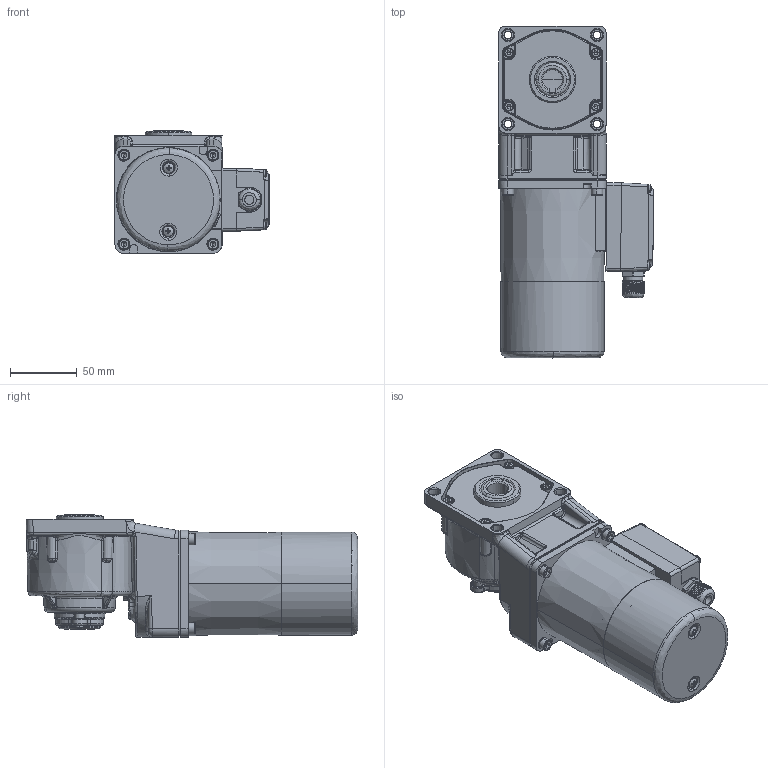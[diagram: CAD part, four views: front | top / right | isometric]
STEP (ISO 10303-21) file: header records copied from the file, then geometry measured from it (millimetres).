
FILE_DESCRIPTION (( 'STEP AP203' ), '1' );
FILE_NAME ('4RK25GN-CMT(4GN3RC-180RC)ÐÂ.STEP', '2022-02-25T05:19:25', ( 'PC' ), ( 'Microsoft' ), 'SwSTEP 2.0', 'SolidWorks 2014', '' );
FILE_SCHEMA (( 'CONFIG_CONTROL_DESIGN' ));
Length unit declared in the file: millimetre
Products named in the file (18): M14SJQ^70TSJXHG(2)_80TSJXH; 80綴傷裔; 4RK25GN-CMT(4GN3RC-180RC)陔; M3^70TSJXHG(2)_80TSJXH; zd-4gn1000rc-504-001-20211209（实心外形）; 70TSJXHG(2)^80TSJXH; cross recessed pan head screws gb_GB_CROSS_SCREWS_TYPE1 M3X6-6  H type-N; 80TSJXH; 80眻褒眊裔; 80TSJK; 80諾陑怀堤粣; M5X20-S^4ik25gn-c-4gn3-180rc_asm(2)_80RC; hexagon socket head cap screws gb_GB_FASTENER_SCREWS_HSHCS M4X12-N; PRT0261^4rk25a-cm_asm(2)_80SCZ; 80TSJXHJK; 4RK25A-CM_AF0^4rk25a-cm_asm(2)_80SCZ; TSJXH^70TSJXHG(2)_80TSJXH; 80SCHXQ^4rk25a-cm_asm(2)_80SCZ
Assembly tree (28 placements, depth 5):
  4RK25GN-CMT(4GN3RC-180RC)陔
    80綴傷裔
    zd-4gn1000rc-504-001-20211209（实心外形）
    cross recessed pan head screws gb_GB_CROSS_SCREWS_TYPE1 M3X6-6  H type-N  x2
    80眻褒眊裔
    80諾陑怀堤粣
    hexagon socket head cap screws gb_GB_FASTENER_SCREWS_HSHCS M4X12-N  x4
    80TSJK
      80TSJXHJK
      80TSJXH
        70TSJXHG(2)^80TSJXH
          TSJXH^70TSJXHG(2)_80TSJXH
          M14SJQ^70TSJXHG(2)_80TSJXH
          M3^70TSJXHG(2)_80TSJXH  x4
    M5X20-S^4ik25gn-c-4gn3-180rc_asm(2)_80RC  x4
    PRT0261^4rk25a-cm_asm(2)_80SCZ  x2
    4RK25A-CM_AF0^4rk25a-cm_asm(2)_80SCZ
    80SCHXQ^4rk25a-cm_asm(2)_80SCZ
Bounding box: 115.74 x 247.79 x 91.5 mm (x, y, z)
Volume: 800339.8 mm3; surface area: 213959.3 mm2
Topology: 25 solids, 27 shells, 3406 faces, 7769 edges, 4406 vertices
Faces by surface type: cone 1309, cylinder 1039, plane 524, bspline 460, torus 54, sphere 20
Entity records: 92968 total; most frequent: CARTESIAN_POINT 48764, ORIENTED_EDGE 9386, DIRECTION 7948, EDGE_CURVE 4693, AXIS2_PLACEMENT_3D 3156, VERTEX_POINT 2795, EDGE_LOOP 2122, ADVANCED_FACE 2005
